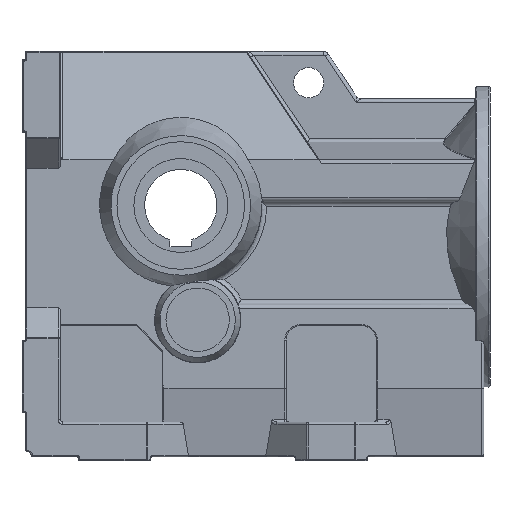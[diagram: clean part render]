
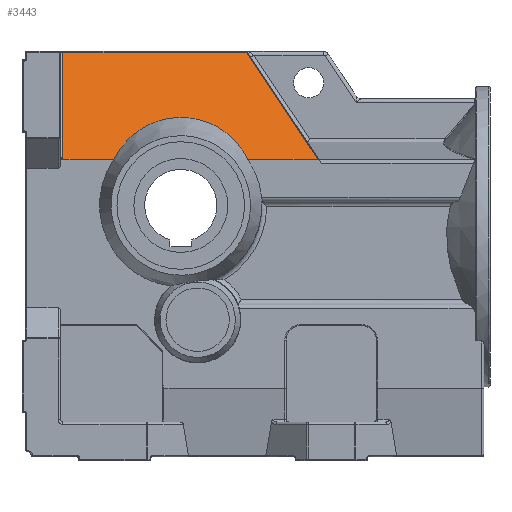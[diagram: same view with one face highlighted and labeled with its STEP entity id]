
A CAD part, front view. The second image highlights one B-rep face of the part: STEP entity #3443.
In plain terms, the highlighted planar face has unit normal (0, -0.914, 0.406).
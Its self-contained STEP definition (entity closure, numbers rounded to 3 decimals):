
#3240=CARTESIAN_POINT('',(-5.535,-50.264,339.406));
#3241=VERTEX_POINT('',#3240);
#3249=CARTESIAN_POINT('',(54.069,-90.0,250.0));
#3250=VERTEX_POINT('',#3249);
#3251=CARTESIAN_POINT('',(-5.535,-50.264,339.406));
#3252=DIRECTION('',(0.52,-0.347,-0.78));
#3253=VECTOR('',#3252,114.565);
#3254=LINE('',#3251,#3253);
#3255=EDGE_CURVE('',#3241,#3250,#3254,.T.);
#3396=CARTESIAN_POINT('',(8.,-70.0,295.0));
#3397=DIRECTION('',(0.0,-0.914,0.406));
#3398=DIRECTION('',(0.0,-0.406,-0.914));
#3399=AXIS2_PLACEMENT_3D('',#3396,#3397,#3398);
#3400=PLANE('',#3399);
#3401=ORIENTED_EDGE('',*,*,#3255,.F.);
#3402=CARTESIAN_POINT('',(-158.0,-50.264,339.406));
#3403=VERTEX_POINT('',#3402);
#3404=CARTESIAN_POINT('',(-158.0,-50.264,339.406));
#3405=DIRECTION('',(1.0,0.0,0.0));
#3406=VECTOR('',#3405,152.465);
#3407=LINE('',#3404,#3406);
#3408=EDGE_CURVE('',#3403,#3241,#3407,.T.);
#3409=ORIENTED_EDGE('',*,*,#3408,.F.);
#3410=CARTESIAN_POINT('',(-158.0,-90.0,250.0));
#3411=VERTEX_POINT('',#3410);
#3412=CARTESIAN_POINT('',(-158.0,-90.,250.0));
#3413=DIRECTION('',(0.0,0.406,0.914));
#3414=VECTOR('',#3413,97.839);
#3415=LINE('',#3412,#3414);
#3416=EDGE_CURVE('',#3411,#3403,#3415,.T.);
#3417=ORIENTED_EDGE('',*,*,#3416,.F.);
#3418=CARTESIAN_POINT('',(-115.788,-90.0,250.0));
#3419=VERTEX_POINT('',#3418);
#3420=CARTESIAN_POINT('',(-158.0,-90.0,250.0));
#3421=DIRECTION('',(1.0,0.0,0.0));
#3422=VECTOR('',#3421,42.212);
#3423=LINE('',#3420,#3422);
#3424=EDGE_CURVE('',#3411,#3419,#3423,.T.);
#3425=ORIENTED_EDGE('',*,*,#3424,.T.);
#3426=CARTESIAN_POINT('',(-4.212,-90.0,250.0));
#3427=VERTEX_POINT('',#3426);
#3428=CARTESIAN_POINT('',(-60.,-102.359,222.191));
#3429=DIRECTION('',(0.,0.914,-0.406));
#3430=DIRECTION('',(0.,-0.406,-0.914));
#3431=AXIS2_PLACEMENT_3D('',#3428,#3429,#3430);
#3432=ELLIPSE('',#3431,68.944,62.172);
#3433=EDGE_CURVE('',#3419,#3427,#3432,.T.);
#3434=ORIENTED_EDGE('',*,*,#3433,.T.);
#3435=CARTESIAN_POINT('',(-4.212,-90.0,250.0));
#3436=DIRECTION('',(1.0,0.0,0.0));
#3437=VECTOR('',#3436,58.281);
#3438=LINE('',#3435,#3437);
#3439=EDGE_CURVE('',#3427,#3250,#3438,.T.);
#3440=ORIENTED_EDGE('',*,*,#3439,.T.);
#3441=EDGE_LOOP('',(#3401,#3409,#3417,#3425,#3434,#3440));
#3442=FACE_OUTER_BOUND('',#3441,.T.);
#3443=ADVANCED_FACE('',(#3442),#3400,.T.);
